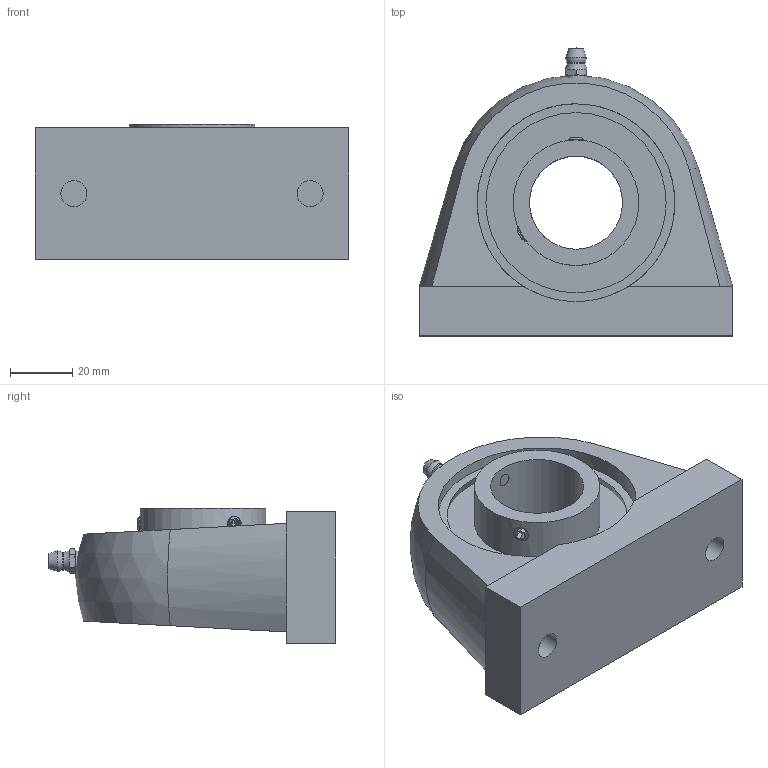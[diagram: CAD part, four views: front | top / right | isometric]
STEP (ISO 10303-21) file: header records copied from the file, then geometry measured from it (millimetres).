
FILE_DESCRIPTION(/* description */ (''),/* implementation_level */ '2;1');
FILE_NAME(/* name */ 'C:\Users\UGijyutu_200702\Desktop\77.プラスチックハウジング\MBTBL200V\MBTBL200V\MBTBL206V.stp',/* time_stamp */ '2024-05-28T11:36:32+09:00',/* author */ ('UGijyutu_200702'),/* organization */ (''),/* preprocessor_version */ 'ST-DEVELOPER v18',/* originating_system */ 'Autodesk Inventor 2020',/* authorisation */ '');
FILE_SCHEMA (('AUTOMOTIVE_DESIGN { 1 0 10303 214 3 1 1 }'));
Length unit declared in the file: millimetre
Products named in the file (4): MBTBL206V; TBL206; MB6 V; 1/4-28UNF-2A
Assembly tree (3 placements, depth 2):
  MBTBL206V
    TBL206
    MB6 V
    1/4-28UNF-2A
Bounding box: 101 x 92.8 x 43.55 mm (x, y, z)
Volume: 174212.8 mm3; surface area: 38947.7 mm2
Topology: 3 solids, 3 shells, 85 faces, 213 edges, 145 vertices
Faces by surface type: plane 46, cylinder 17, cone 15, sphere 5, torus 2
Full cylindrical faces by diameter (mm): 3.2 x1, 5 x2, 5.359 x1, 6.35 x1, 8.376 x2, 30 x1, 40.5 x1, 63.8 x2
Entity records: 2968 total; most frequent: CARTESIAN_POINT 703, DIRECTION 452, ORIENTED_EDGE 424, EDGE_CURVE 212, AXIS2_PLACEMENT_3D 186, VERTEX_POINT 145, EDGE_LOOP 103, FACE_OUTER_BOUND 85
